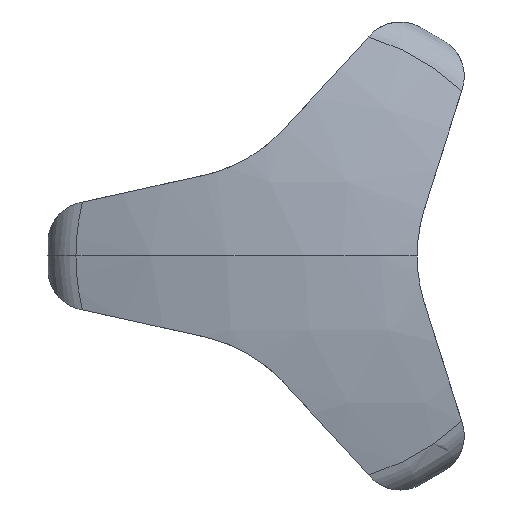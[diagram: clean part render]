
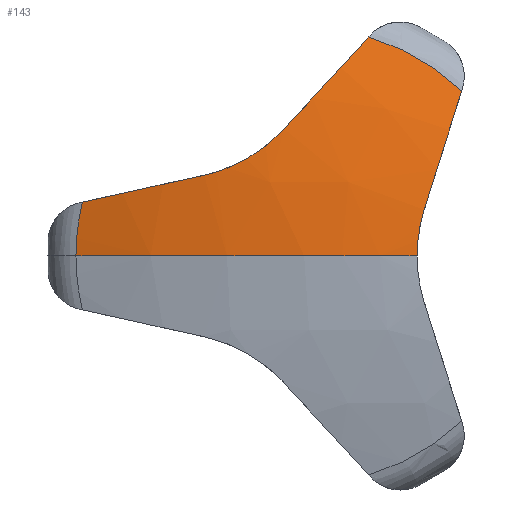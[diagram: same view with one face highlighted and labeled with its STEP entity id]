
A CAD part, left-side view. The second image highlights one B-rep face of the part: STEP entity #143.
In plain terms, the highlighted spherical face has radius 72 mm.
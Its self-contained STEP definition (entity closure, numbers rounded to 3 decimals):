
#24 = CARTESIAN_POINT ( 'NONE',  ( -29.112, 7.211, 8.674 ) ) ;
#26 = EDGE_CURVE ( 'NONE', #1420, #840, #1082, .T. ) ;
#42 = B_SPLINE_CURVE_WITH_KNOTS ( 'NONE', 3,
 ( #637, #890, #1370, #271, #642, #666, #1145, #276 ),
 .UNSPECIFIED., .F., .F.,
 ( 4, 2, 2, 4 ),
 ( 0.005, 0.006, 0.007, 0.009 ),
 .UNSPECIFIED. ) ;
#48 = CARTESIAN_POINT ( 'NONE',  ( 42., 0., 0. ) ) ;
#54 = AXIS2_PLACEMENT_3D ( 'NONE', #511, #1347, #1485 ) ;
#61 = DIRECTION ( 'NONE',  ( 0., 0.954, 0.301 ) ) ;
#63 = DIRECTION ( 'NONE',  ( 0., 1., 0. ) ) ;
#82 = CIRCLE ( 'NONE', #983, 72. ) ;
#88 = CARTESIAN_POINT ( 'NONE',  ( -28.901, 1.941, 12.383 ) ) ;
#110 = AXIS2_PLACEMENT_3D ( 'NONE', #578, #1061, #1556 ) ;
#132 = CARTESIAN_POINT ( 'NONE',  ( -29.133, 4.2, 10.346 ) ) ;
#143 = ADVANCED_FACE ( 'NONE', ( #1352 ), #255, .T. ) ;
#188 = DIRECTION ( 'NONE',  ( 0., 0.301, -0.954 ) ) ;
#199 = VERTEX_POINT ( 'NONE', #1379 ) ;
#202 = CARTESIAN_POINT ( 'NONE',  ( 42., 2.12, 9.564 ) ) ;
#255 = SPHERICAL_SURFACE ( 'NONE', #54, 72. ) ;
#271 = CARTESIAN_POINT ( 'NONE',  ( -29.128, -11.074, 1.532 ) ) ;
#276 = CARTESIAN_POINT ( 'NONE',  ( -28.901, -11.694, 4.511 ) ) ;
#303 = EDGE_CURVE ( 'NONE', #1363, #739, #82, .T. ) ;
#311 = ORIENTED_EDGE ( 'NONE', *, *, #433, .F. ) ;
#314 = AXIS2_PLACEMENT_3D ( 'NONE', #202, #449, #1564 ) ;
#350 = AXIS2_PLACEMENT_3D ( 'NONE', #1205, #719, #454 ) ;
#382 = CARTESIAN_POINT ( 'NONE',  ( -28.901, 1.941, 12.383 ) ) ;
#388 = CARTESIAN_POINT ( 'NONE',  ( -29.155, 4.829, 9.914 ) ) ;
#393 = CARTESIAN_POINT ( 'NONE',  ( -28.901, 9.753, 7.872 ) ) ;
#420 = CIRCLE ( 'NONE', #350, 72. ) ;
#433 = EDGE_CURVE ( 'NONE', #199, #823, #477, .T. ) ;
#449 = DIRECTION ( 'NONE',  ( 0., -0.216, -0.976 ) ) ;
#454 = DIRECTION ( 'NONE',  ( -1., 0., 0. ) ) ;
#472 = CARTESIAN_POINT ( 'NONE',  ( -30., 0., 0. ) ) ;
#477 = CIRCLE ( 'NONE', #110, 22.235 ) ;
#498 = CARTESIAN_POINT ( 'NONE',  ( -28.985, 2.459, 11.817 ) ) ;
#511 = CARTESIAN_POINT ( 'NONE',  ( 42., 0., 0. ) ) ;
#513 = CARTESIAN_POINT ( 'NONE',  ( -29.149, 6.171, 9.156 ) ) ;
#527 = AXIS2_PLACEMENT_3D ( 'NONE', #688, #61, #188 ) ;
#536 = EDGE_CURVE ( 'NONE', #199, #971, #1110, .T. ) ;
#558 = CARTESIAN_POINT ( 'NONE',  ( -26.481, -15.346, 16.091 ) ) ;
#578 = CARTESIAN_POINT ( 'NONE',  ( -26.481, 0., 0. ) ) ;
#606 = CARTESIAN_POINT ( 'NONE',  ( 42., 7.223, 6.619 ) ) ;
#629 = CARTESIAN_POINT ( 'NONE',  ( -29.128, 6.861, 8.825 ) ) ;
#633 = ORIENTED_EDGE ( 'NONE', *, *, #1502, .T. ) ;
#637 = CARTESIAN_POINT ( 'NONE',  ( -29.155, -11., 0. ) ) ;
#642 = CARTESIAN_POINT ( 'NONE',  ( -29.112, -11.117, 1.91 ) ) ;
#666 = CARTESIAN_POINT ( 'NONE',  ( -29.048, -11.291, 3.038 ) ) ;
#680 = DIRECTION ( 'NONE',  ( 1., 0., 0. ) ) ;
#688 = CARTESIAN_POINT ( 'NONE',  ( 42., -9.343, -2.946 ) ) ;
#693 = DIRECTION ( 'NONE',  ( 0., 0., 1. ) ) ;
#719 = DIRECTION ( 'NONE',  ( 0., 0., -1. ) ) ;
#739 = VERTEX_POINT ( 'NONE', #1232 ) ;
#744 = ORIENTED_EDGE ( 'NONE', *, *, #1442, .T. ) ;
#749 = CARTESIAN_POINT ( 'NONE',  ( -29.048, 8.275, 8.26 ) ) ;
#764 = CARTESIAN_POINT ( 'NONE',  ( -29.048, 3.015, 11.297 ) ) ;
#789 = CARTESIAN_POINT ( 'NONE',  ( -26.481, 21.608, 5.244 ) ) ;
#799 = DIRECTION ( 'NONE',  ( 0., -1., 0. ) ) ;
#823 = VERTEX_POINT ( 'NONE', #558 ) ;
#829 = ORIENTED_EDGE ( 'NONE', *, *, #536, .T. ) ;
#835 = VERTEX_POINT ( 'NONE', #1022 ) ;
#840 = VERTEX_POINT ( 'NONE', #789 ) ;
#858 = EDGE_CURVE ( 'NONE', #835, #840, #1317, .T. ) ;
#889 = AXIS2_PLACEMENT_3D ( 'NONE', #1048, #680, #63 ) ;
#890 = CARTESIAN_POINT ( 'NONE',  ( -29.155, -11., 0.385 ) ) ;
#931 = AXIS2_PLACEMENT_3D ( 'NONE', #606, #1219, #1089 ) ;
#971 = VERTEX_POINT ( 'NONE', #88 ) ;
#983 = AXIS2_PLACEMENT_3D ( 'NONE', #48, #693, #799 ) ;
#1022 = CARTESIAN_POINT ( 'NONE',  ( -26.481, 22.235, 0. ) ) ;
#1025 = EDGE_CURVE ( 'NONE', #1363, #835, #420, .T. ) ;
#1048 = CARTESIAN_POINT ( 'NONE',  ( -26.481, 0., 0. ) ) ;
#1061 = DIRECTION ( 'NONE',  ( 1., 0., 0. ) ) ;
#1082 = CIRCLE ( 'NONE', #314, 71.33 ) ;
#1089 = DIRECTION ( 'NONE',  ( 0., -0.676, 0.737 ) ) ;
#1110 = CIRCLE ( 'NONE', #931, 71.33 ) ;
#1134 = ORIENTED_EDGE ( 'NONE', *, *, #303, .T. ) ;
#1145 = CARTESIAN_POINT ( 'NONE',  ( -28.985, -11.464, 3.78 ) ) ;
#1172 = ORIENTED_EDGE ( 'NONE', *, *, #1184, .T. ) ;
#1184 = EDGE_CURVE ( 'NONE', #1269, #823, #1520, .T. ) ;
#1205 = CARTESIAN_POINT ( 'NONE',  ( 42., 0., 0. ) ) ;
#1207 = ORIENTED_EDGE ( 'NONE', *, *, #1025, .F. ) ;
#1219 = DIRECTION ( 'NONE',  ( 0., -0.737, -0.676 ) ) ;
#1232 = CARTESIAN_POINT ( 'NONE',  ( -29.155, -11., 0. ) ) ;
#1269 = VERTEX_POINT ( 'NONE', #1407 ) ;
#1317 = CIRCLE ( 'NONE', #889, 22.235 ) ;
#1347 = DIRECTION ( 'NONE',  ( 0., 0., 1. ) ) ;
#1348 = CARTESIAN_POINT ( 'NONE',  ( -29.155, 5.829, 9.336 ) ) ;
#1352 = FACE_OUTER_BOUND ( 'NONE', #1561, .T. ) ;
#1363 = VERTEX_POINT ( 'NONE', #472 ) ;
#1370 = CARTESIAN_POINT ( 'NONE',  ( -29.149, -11.015, 0.77 ) ) ;
#1379 = CARTESIAN_POINT ( 'NONE',  ( -26.481, -6.262, 21.335 ) ) ;
#1407 = CARTESIAN_POINT ( 'NONE',  ( -28.901, -11.694, 4.511 ) ) ;
#1408 = ORIENTED_EDGE ( 'NONE', *, *, #858, .F. ) ;
#1420 = VERTEX_POINT ( 'NONE', #1496 ) ;
#1442 = EDGE_CURVE ( 'NONE', #971, #1420, #1469, .T. ) ;
#1468 = CARTESIAN_POINT ( 'NONE',  ( -28.985, 9.004, 8.038 ) ) ;
#1469 = B_SPLINE_CURVE_WITH_KNOTS ( 'NONE', 3,
 ( #382, #498, #764, #132, #388, #1348, #513, #629, #24, #749, #1468, #393 ),
 .UNSPECIFIED., .F., .F.,
 ( 4, 2, 2, 2, 2, 4 ),
 ( 0., 0.002, 0.005, 0.006, 0.007, 0.009 ),
 .UNSPECIFIED. ) ;
#1478 = ORIENTED_EDGE ( 'NONE', *, *, #26, .T. ) ;
#1485 = DIRECTION ( 'NONE',  ( 0., 1., 0. ) ) ;
#1496 = CARTESIAN_POINT ( 'NONE',  ( -28.901, 9.753, 7.872 ) ) ;
#1502 = EDGE_CURVE ( 'NONE', #739, #1269, #42, .T. ) ;
#1520 = CIRCLE ( 'NONE', #527, 71.33 ) ;
#1556 = DIRECTION ( 'NONE',  ( 0., 1., 0. ) ) ;
#1561 = EDGE_LOOP ( 'NONE', ( #1207, #1134, #633, #1172, #311, #829, #744, #1478, #1408 ) ) ;
#1564 = DIRECTION ( 'NONE',  ( 0., -0.976, 0.216 ) ) ;
